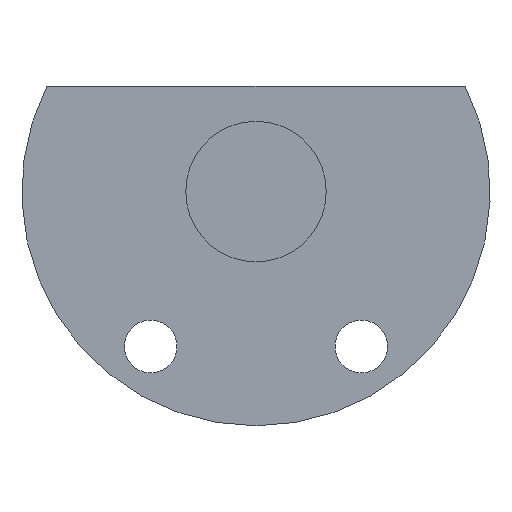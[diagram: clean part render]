
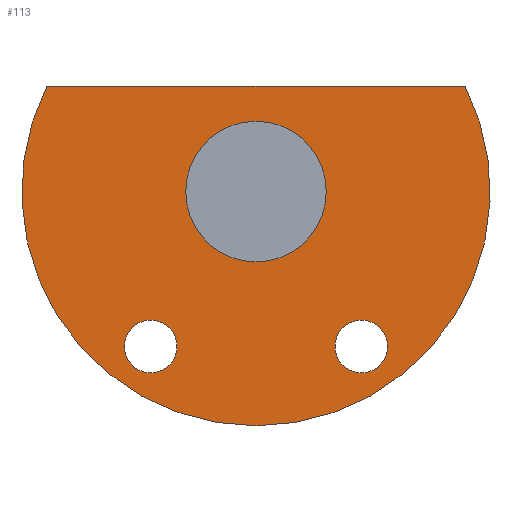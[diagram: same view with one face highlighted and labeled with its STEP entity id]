
A CAD part, front view. The second image highlights one B-rep face of the part: STEP entity #113.
In plain terms, the highlighted planar face has unit normal (0, -1, 0).
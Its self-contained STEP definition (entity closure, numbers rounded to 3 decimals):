
#24 = VERTEX_POINT('',#25);
#25 = CARTESIAN_POINT('',(-17.861,-1036.,9.));
#31 = EDGE_CURVE('',#24,#32,#34,.T.);
#32 = VERTEX_POINT('',#33);
#33 = CARTESIAN_POINT('',(17.861,-1036.,9.));
#34 = CIRCLE('',#35,20.);
#35 = AXIS2_PLACEMENT_3D('',#36,#37,#38);
#36 = CARTESIAN_POINT('',(0.,-1036.,0.));
#37 = DIRECTION('',(0.,-1.,0.));
#38 = DIRECTION('',(1.,0.,0.));
#64 = EDGE_CURVE('',#24,#32,#65,.T.);
#65 = LINE('',#66,#67);
#66 = CARTESIAN_POINT('',(-17.861,-1036.,9.));
#67 = VECTOR('',#68,1.);
#68 = DIRECTION('',(1.,0.,0.));
#113 = ADVANCED_FACE('',(#114,#118,#129,#140),#151,.F.);
#114 = FACE_BOUND('',#115,.F.);
#115 = EDGE_LOOP('',(#116,#117));
#116 = ORIENTED_EDGE('',*,*,#31,.F.);
#117 = ORIENTED_EDGE('',*,*,#64,.T.);
#118 = FACE_BOUND('',#119,.F.);
#119 = EDGE_LOOP('',(#120));
#120 = ORIENTED_EDGE('',*,*,#121,.T.);
#121 = EDGE_CURVE('',#122,#122,#124,.T.);
#122 = VERTEX_POINT('',#123);
#123 = CARTESIAN_POINT('',(-6.75,-1036.,-13.229));
#124 = CIRCLE('',#125,2.25);
#125 = AXIS2_PLACEMENT_3D('',#126,#127,#128);
#126 = CARTESIAN_POINT('',(-9.,-1036.,-13.229));
#127 = DIRECTION('',(0.,-1.,0.));
#128 = DIRECTION('',(1.,0.,0.));
#129 = FACE_BOUND('',#130,.F.);
#130 = EDGE_LOOP('',(#131));
#131 = ORIENTED_EDGE('',*,*,#132,.T.);
#132 = EDGE_CURVE('',#133,#133,#135,.T.);
#133 = VERTEX_POINT('',#134);
#134 = CARTESIAN_POINT('',(11.25,-1036.,-13.229));
#135 = CIRCLE('',#136,2.25);
#136 = AXIS2_PLACEMENT_3D('',#137,#138,#139);
#137 = CARTESIAN_POINT('',(9.,-1036.,-13.229));
#138 = DIRECTION('',(0.,-1.,0.));
#139 = DIRECTION('',(1.,0.,0.));
#140 = FACE_BOUND('',#141,.F.);
#141 = EDGE_LOOP('',(#142));
#142 = ORIENTED_EDGE('',*,*,#143,.T.);
#143 = EDGE_CURVE('',#144,#144,#146,.T.);
#144 = VERTEX_POINT('',#145);
#145 = CARTESIAN_POINT('',(6.,-1036.,0.));
#146 = CIRCLE('',#147,6.);
#147 = AXIS2_PLACEMENT_3D('',#148,#149,#150);
#148 = CARTESIAN_POINT('',(0.,-1036.,
    0.));
#149 = DIRECTION('',(0.,-1.,0.));
#150 = DIRECTION('',(1.,0.,0.));
#151 = PLANE('',#152);
#152 = AXIS2_PLACEMENT_3D('',#153,#154,#155);
#153 = CARTESIAN_POINT('',(0.,-1036.,
    -2.11));
#154 = DIRECTION('',(0.,1.,0.));
#155 = DIRECTION('',(0.,0.,1.));
